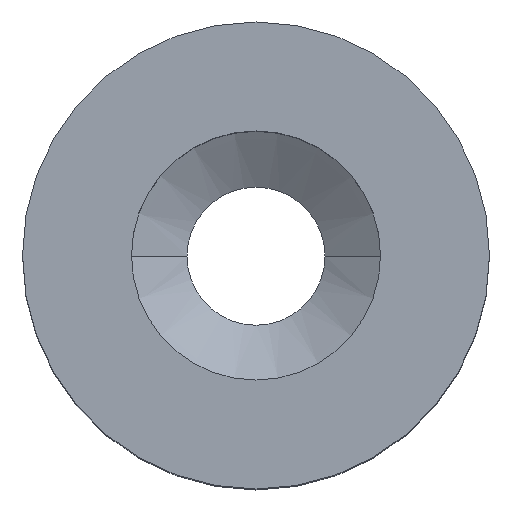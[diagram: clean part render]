
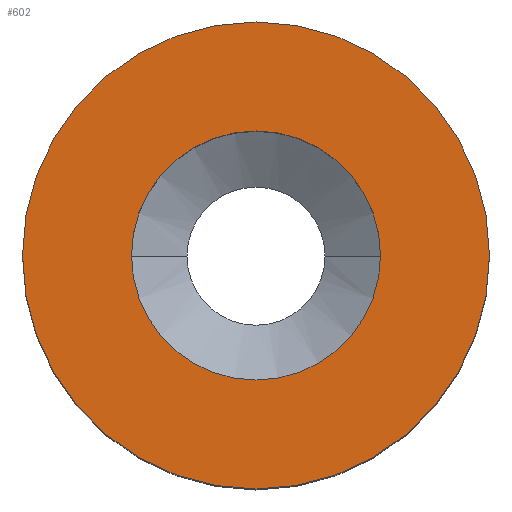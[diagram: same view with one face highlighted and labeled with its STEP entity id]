
A CAD part, top view. The second image highlights one B-rep face of the part: STEP entity #602.
In plain terms, the highlighted planar face has unit normal (0, 0, 1).
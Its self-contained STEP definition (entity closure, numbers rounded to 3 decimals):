
#5 = CIRCLE ( 'NONE', #241, 7.5 ) ;
#7 = DIRECTION ( 'NONE',  ( 1., 0., 0. ) ) ;
#48 = CARTESIAN_POINT ( 'NONE',  ( 7.5, 0., 0. ) ) ;
#54 = CARTESIAN_POINT ( 'NONE',  ( 0., 0., 0. ) ) ;
#60 = CARTESIAN_POINT ( 'NONE',  ( 0., 0., 0. ) ) ;
#67 = VERTEX_POINT ( 'NONE', #527 ) ;
#102 = DIRECTION ( 'NONE',  ( 0., 0., 1. ) ) ;
#108 = DIRECTION ( 'NONE',  ( 0., 0., 1. ) ) ;
#136 = EDGE_CURVE ( 'NONE', #512, #67, #313, .T. ) ;
#144 = AXIS2_PLACEMENT_3D ( 'NONE', #635, #762, #372 ) ;
#152 = DIRECTION ( 'NONE',  ( 0., 0., 1. ) ) ;
#182 = VERTEX_POINT ( 'NONE', #48 ) ;
#189 = AXIS2_PLACEMENT_3D ( 'NONE', #361, #152, #7 ) ;
#192 = DIRECTION ( 'NONE',  ( -1., 0., 0. ) ) ;
#198 = PLANE ( 'NONE',  #367 ) ;
#212 = AXIS2_PLACEMENT_3D ( 'NONE', #54, #102, #760 ) ;
#241 = AXIS2_PLACEMENT_3D ( 'NONE', #494, #108, #765 ) ;
#308 = ORIENTED_EDGE ( 'NONE', *, *, #618, .T. ) ;
#313 = CIRCLE ( 'NONE', #212, 4. ) ;
#340 = ORIENTED_EDGE ( 'NONE', *, *, #504, .F. ) ;
#361 = CARTESIAN_POINT ( 'NONE',  ( 0., 0., 0. ) ) ;
#367 = AXIS2_PLACEMENT_3D ( 'NONE', #60, #649, #192 ) ;
#368 = EDGE_LOOP ( 'NONE', ( #585, #308 ) ) ;
#372 = DIRECTION ( 'NONE',  ( 1., 0., 0. ) ) ;
#411 = CARTESIAN_POINT ( 'NONE',  ( -4., 0., 0. ) ) ;
#476 = EDGE_LOOP ( 'NONE', ( #340, #710 ) ) ;
#494 = CARTESIAN_POINT ( 'NONE',  ( 0., 0., 0. ) ) ;
#499 = EDGE_CURVE ( 'NONE', #182, #772, #678, .T. ) ;
#502 = CARTESIAN_POINT ( 'NONE',  ( -7.5, 0., 0. ) ) ;
#504 = EDGE_CURVE ( 'NONE', #67, #512, #654, .T. ) ;
#512 = VERTEX_POINT ( 'NONE', #411 ) ;
#515 = FACE_OUTER_BOUND ( 'NONE', #368, .T. ) ;
#527 = CARTESIAN_POINT ( 'NONE',  ( 4., 0., 0. ) ) ;
#530 = FACE_BOUND ( 'NONE', #476, .T. ) ;
#585 = ORIENTED_EDGE ( 'NONE', *, *, #499, .T. ) ;
#602 = ADVANCED_FACE ( 'NONE', ( #530, #515 ), #198, .F. ) ;
#618 = EDGE_CURVE ( 'NONE', #772, #182, #5, .T. ) ;
#635 = CARTESIAN_POINT ( 'NONE',  ( 0., 0., 0. ) ) ;
#649 = DIRECTION ( 'NONE',  ( 0., 0., -1. ) ) ;
#654 = CIRCLE ( 'NONE', #189, 4. ) ;
#678 = CIRCLE ( 'NONE', #144, 7.5 ) ;
#710 = ORIENTED_EDGE ( 'NONE', *, *, #136, .F. ) ;
#760 = DIRECTION ( 'NONE',  ( 1., 0., 0. ) ) ;
#762 = DIRECTION ( 'NONE',  ( 0., 0., 1. ) ) ;
#765 = DIRECTION ( 'NONE',  ( 1., 0., 0. ) ) ;
#772 = VERTEX_POINT ( 'NONE', #502 ) ;
